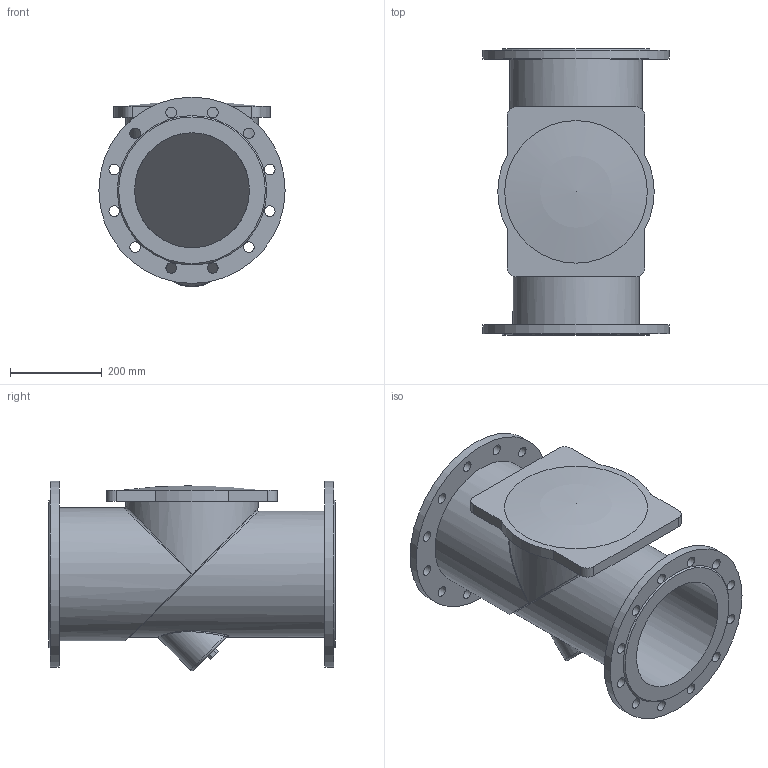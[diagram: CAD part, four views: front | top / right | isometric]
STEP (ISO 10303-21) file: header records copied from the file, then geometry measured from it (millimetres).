
FILE_DESCRIPTION(('STEP AP203'), '1');
FILE_NAME('Êëàïàí îäíîñòâîð÷àòûé îáðàòíûé ôëàíöåâûé 015F.Z DN250 PN10', '', ('UNSPECIFIED'), ('UNSPECIFIED'), 'ASCON STEP Converter 1.6', 'ASCON Math Kernel', '');
FILE_SCHEMA(('CONFIG_CONTROL_DESIGN'));
Length unit declared in the file: millimetre
Bounding box: 405 x 622 x 412.56 mm (x, y, z)
Volume: 15602293.3 mm3; surface area: 1736924.3 mm2
Topology: 1 solids, 2 shells, 78 faces, 183 edges, 118 vertices
Faces by surface type: cylinder 41, plane 27, bspline 6, cone 2, torus 1, sphere 1
Full cylindrical faces by diameter (mm): 23 x24, 250 x2, 265 x1, 274 x1, 289 x2, 405 x2
Entity records: 4456 total; most frequent: CARTESIAN_POINT 2065, DIRECTION 346, ORIENTED_EDGE 288, EDGE_LOOP 173, AXIS2_PLACEMENT_3D 152, EDGE_CURVE 144, VERTEX_POINT 117, FACE_BOUND 104
